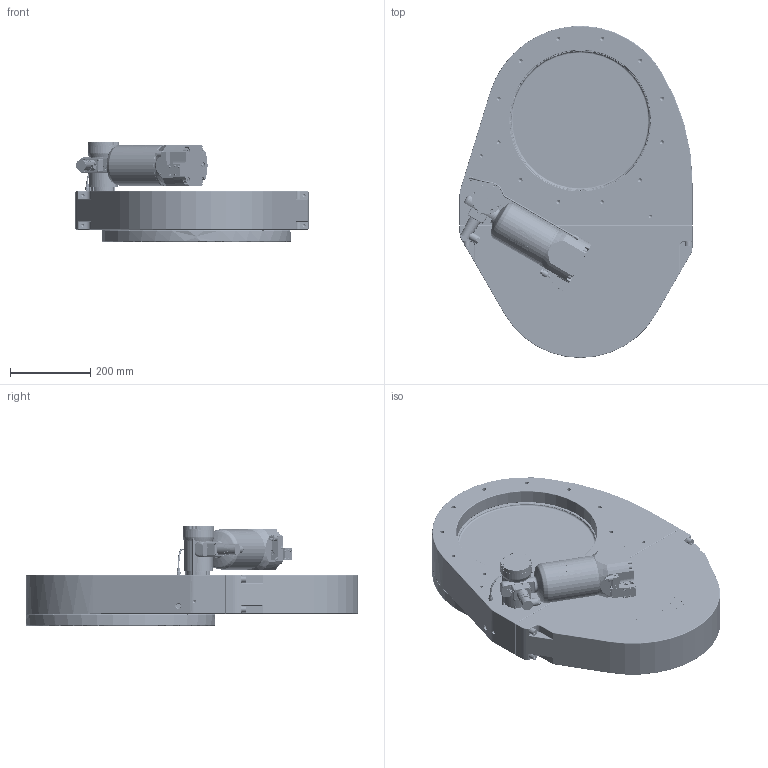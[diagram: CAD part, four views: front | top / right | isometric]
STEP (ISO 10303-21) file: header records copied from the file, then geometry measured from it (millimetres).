
FILE_DESCRIPTION(/* description */ (''),/* implementation_level */ '2;1');
FILE_NAME(/* name */ '1576312275_203.stp',/* time_stamp */ '2011-04-18T11:38:09+02:00',/* author */ (''),/* organization */ (''),/* preprocessor_version */ 'ST-DEVELOPER v11',/* originating_system */ 'SIEMENS UGS NX 6.0',/* authorisation */ '');
FILE_SCHEMA (('CONFIG_CONTROL_DESIGN'));
Products named in the file (64): 75429-01_15972ID; 69252-01_15970ID; 69252-01_15936ID; 82555-01; N-8210-239; 82610-01; N-8406-007; N-8406-551; N-6030-011; 69672-01; N-8406-006_1; N-7557-016_1.1; N-7557-018.1; N-7557-016_2.1; N-7557-016_3.1; N-6024-524.1; N-5018-005.1; n-6024-531; 69846-01; N-8504-005.2; 384212_15860ID; 375433_15858ID; 310276.1; 311105.1; 309656.1; N-7607-023.1; 246211.3; N-6071-446.1; 319296.3; 222717.1; N-5002-498.1; 244151.3; N-6091-462.1; 244326.2; 320171.1; 265274.6; 236055.1; 248044.2; N-6005-502.1; N-6121-017.2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
Assembly tree (121 placements, depth 5):
  362341.2
    309436.2
      309493.2_15974ID
    N-6005-844.1  x4
    224833.1  x24
    n-6134-410  x4
    316197
    311831.1_NX-ARRAGMNTZUSAMMENSTELLUNG1
      N-6091-505.1  x6
      N-7636-200.2
      375537
        375433_15858ID
    308804.3
      388563_MODEL
        384212_15860ID
    322193.3_NX-ARRAGMNTANTRIEB41
      308105.5
      309711.1
      322093.2  x3
      308477.4
      265277.4
      N-6203-418.1
      N-6121-017.2
      N-6005-502.1  x4
      248044.2
      236055.1  x2
      265274.6
      320171.1
      244326.2
      N-6091-462.1  x2
      244151.3
      N-5002-498.1
      243023.17
        N-8504-005.2
        69846-01
        n-6024-531  x4
        71852-r1
          N-8406-006_1
          69672-01
          N-6030-011  x4
          N-8406-551  x2
          N-8406-007
          82610-01
          N-8210-239  x4
          82555-01
        69428-r1
          69252-01_15936ID
          69252-01_15970ID
          75429-01_15972ID
      222717.1  x2
      319296.3
      N-6071-446.1
      246211.3
      N-7607-023.1
      309656.1
      311105.1
      94800-R1.7_NX-ARRAGMNTKONFIG2
        N-5018-005.1  x2
        N-6024-524.1  x6
        N-7557-016_3.1
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Bounding box: 579 x 825 x 246.95 mm (x, y, z)
Volume: 18163139.3 mm3; surface area: 2641327.2 mm2
Topology: 182 solids, 182 shells, 4781 faces, 11665 edges, 7493 vertices
Faces by surface type: plane 2374, cylinder 1106, cone 386, torus 367, bspline 346, extrusion 154, sphere 45, revolution 3
Full cylindrical faces by diameter (mm): 0.5 x2, 1 x7, 1.2 x10, 1.5 x11, 1.6 x6, 1.95 x4, 2 x5, 2.2 x4, 2.25 x4, 2.3 x4, 2.5 x20, 2.7 x4, 2.8 x3, 2.856 x4, 3 x25, 3.2 x4, 3.26 x3, 3.3 x7, 3.4 x10, 3.5 x8, 3.9 x4, 3.989 x2, 4 x17, 4.054 x2, 4.2 x6, 4.5 x6, 5 x11, 5.2 x3, 5.5 x1, 6 x24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
Entity records: 136131 total; most frequent: CARTESIAN_POINT 41165, DIRECTION 17083, ORIENTED_EDGE 17048, EDGE_CURVE 8524, AXIS2_PLACEMENT_3D 6602, VERTEX_POINT 6114, EDGE_LOOP 5491, ADVANCED_FACE 3925
